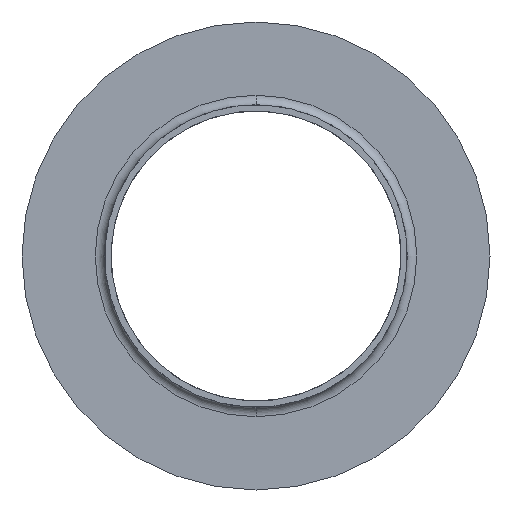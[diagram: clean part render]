
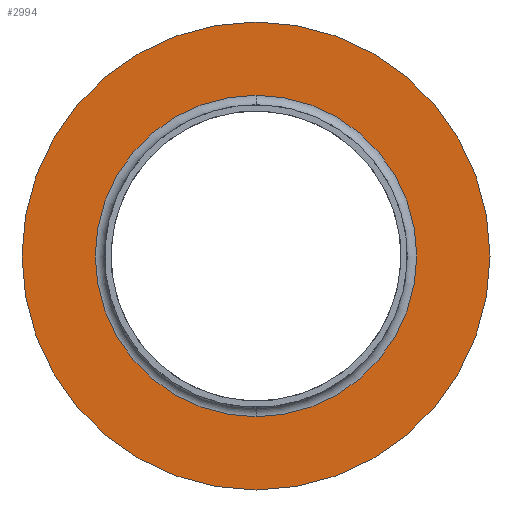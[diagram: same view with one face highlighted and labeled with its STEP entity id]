
A CAD part, front view. The second image highlights one B-rep face of the part: STEP entity #2994.
In plain terms, the highlighted planar face has unit normal (0, -1, 0).
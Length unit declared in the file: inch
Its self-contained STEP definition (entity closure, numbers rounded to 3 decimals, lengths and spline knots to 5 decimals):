
#135 = AXIS2_PLACEMENT_3D ( 'NONE', #1833, #2440, #621 ) ;
#146 = VERTEX_POINT ( 'NONE', #1544 ) ;
#195 = CIRCLE ( 'NONE', #3894, 3.0935 ) ;
#251 = DIRECTION ( 'NONE',  ( 0., 0., -1. ) ) ;
#387 = AXIS2_PLACEMENT_3D ( 'NONE', #3963, #2094, #251 ) ;
#390 = VERTEX_POINT ( 'NONE', #402 ) ;
#402 = CARTESIAN_POINT ( 'NONE',  ( 0., 0.35189, 2.125 ) ) ;
#472 = CIRCLE ( 'NONE', #1183, 3.0935 ) ;
#621 = DIRECTION ( 'NONE',  ( 0., 0., 1. ) ) ;
#733 = CIRCLE ( 'NONE', #2352, 2.125 ) ;
#866 = CIRCLE ( 'NONE', #387, 2.125 ) ;
#897 = EDGE_CURVE ( 'NONE', #146, #3064, #195, .T. ) ;
#930 = FACE_OUTER_BOUND ( 'NONE', #1591, .T. ) ;
#1069 = VERTEX_POINT ( 'NONE', #2854 ) ;
#1183 = AXIS2_PLACEMENT_3D ( 'NONE', #3327, #3268, #3133 ) ;
#1250 = DIRECTION ( 'NONE',  ( 0., -1., 0. ) ) ;
#1271 = CARTESIAN_POINT ( 'NONE',  ( 0., 0.35189, -3.0935 ) ) ;
#1351 = DIRECTION ( 'NONE',  ( 0., -1., 0. ) ) ;
#1544 = CARTESIAN_POINT ( 'NONE',  ( 0., 0.35189, 3.0935 ) ) ;
#1591 = EDGE_LOOP ( 'NONE', ( #3965, #1727 ) ) ;
#1727 = ORIENTED_EDGE ( 'NONE', *, *, #897, .T. ) ;
#1833 = CARTESIAN_POINT ( 'NONE',  ( -3.0935, 0.35189, 0. ) ) ;
#1913 = EDGE_CURVE ( 'NONE', #3064, #146, #472, .T. ) ;
#2094 = DIRECTION ( 'NONE',  ( 0., -1., 0. ) ) ;
#2297 = EDGE_CURVE ( 'NONE', #390, #1069, #866, .T. ) ;
#2352 = AXIS2_PLACEMENT_3D ( 'NONE', #3091, #1250, #3416 ) ;
#2426 = EDGE_LOOP ( 'NONE', ( #2452, #2909 ) ) ;
#2440 = DIRECTION ( 'NONE',  ( 0., 1., 0. ) ) ;
#2452 = ORIENTED_EDGE ( 'NONE', *, *, #3026, .F. ) ;
#2854 = CARTESIAN_POINT ( 'NONE',  ( 0., 0.35189, -2.125 ) ) ;
#2883 = CARTESIAN_POINT ( 'NONE',  ( 0., 0.35189, 0. ) ) ;
#2909 = ORIENTED_EDGE ( 'NONE', *, *, #2297, .F. ) ;
#2994 = ADVANCED_FACE ( 'NONE', ( #3389, #930 ), #3386, .F. ) ;
#3026 = EDGE_CURVE ( 'NONE', #1069, #390, #733, .T. ) ;
#3064 = VERTEX_POINT ( 'NONE', #1271 ) ;
#3091 = CARTESIAN_POINT ( 'NONE',  ( 0., 0.35189, 0. ) ) ;
#3133 = DIRECTION ( 'NONE',  ( 0., 0., -1. ) ) ;
#3268 = DIRECTION ( 'NONE',  ( 0., -1., 0. ) ) ;
#3327 = CARTESIAN_POINT ( 'NONE',  ( 0., 0.35189, 0. ) ) ;
#3386 = PLANE ( 'NONE',  #135 ) ;
#3389 = FACE_BOUND ( 'NONE', #2426, .T. ) ;
#3416 = DIRECTION ( 'NONE',  ( 0., 0., -1. ) ) ;
#3516 = DIRECTION ( 'NONE',  ( 0., 0., -1. ) ) ;
#3894 = AXIS2_PLACEMENT_3D ( 'NONE', #2883, #1351, #3516 ) ;
#3963 = CARTESIAN_POINT ( 'NONE',  ( 0., 0.35189, 0. ) ) ;
#3965 = ORIENTED_EDGE ( 'NONE', *, *, #1913, .T. ) ;
